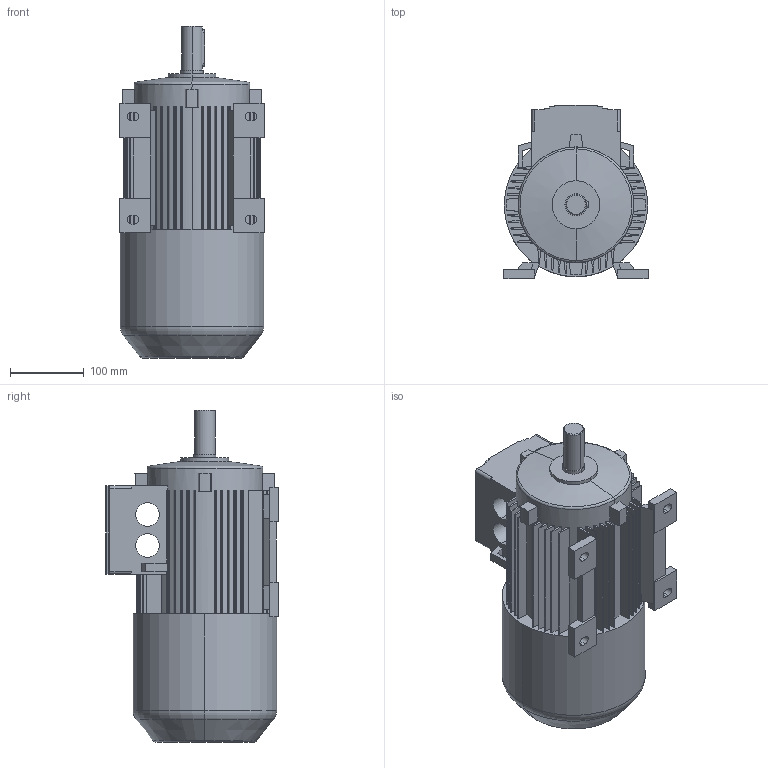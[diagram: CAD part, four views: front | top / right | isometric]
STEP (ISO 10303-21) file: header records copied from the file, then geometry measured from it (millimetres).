
FILE_DESCRIPTION((''),'2;1');
FILE_NAME('1LA7106-2AA10-Z-G26_PRT','2002-04-12T',('martin könig'),(''),'PRO/ENGINEER BY PARAMETRIC TECHNOLOGY CORPORATION, 2002030','PRO/ENGINEER BY PARAMETRIC TECHNOLOGY CORPORATION, 2002030','');
FILE_SCHEMA(('CONFIG_CONTROL_DESIGN'));
Length unit declared in the file: millimetre
Products named in the file (1): 1LA7106-2AA10-Z-G26_PRT
Bounding box: 196 x 235 x 451 mm (x, y, z)
Volume: 10053966.7 mm3; surface area: 536179.4 mm2
Topology: 1 solids, 1 shells, 315 faces, 893 edges, 588 vertices
Faces by surface type: plane 220, cylinder 83, torus 6, cone 6
Entity records: 10324 total; most frequent: CARTESIAN_POINT 1829, ORIENTED_EDGE 1786, DIRECTION 1775, EDGE_CURVE 893, VECTOR 637, LINE 637, VERTEX_POINT 588, AXIS2_PLACEMENT_3D 569
